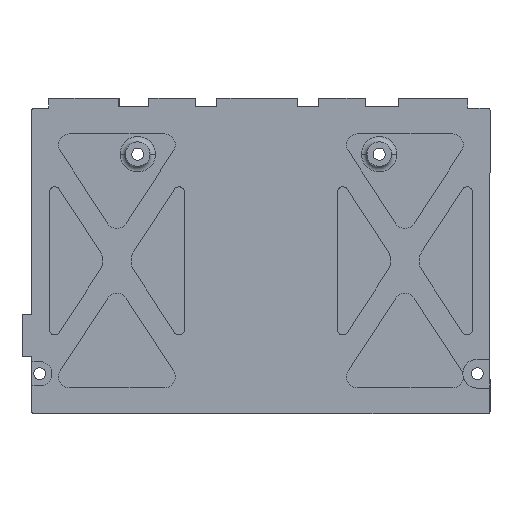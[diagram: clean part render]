
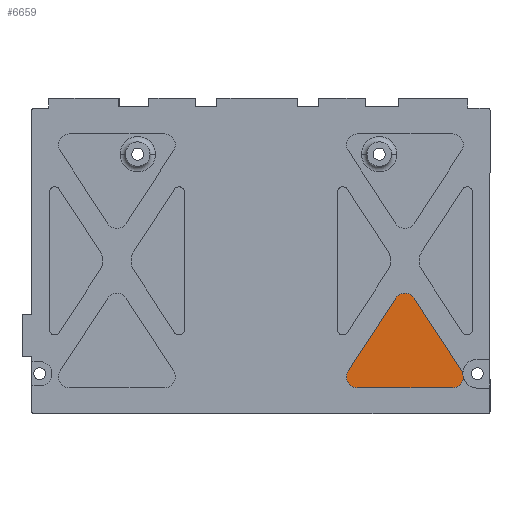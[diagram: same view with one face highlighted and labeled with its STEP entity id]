
A CAD part, top view. The second image highlights one B-rep face of the part: STEP entity #6659.
In plain terms, the highlighted planar face has unit normal (0, 0, 1).
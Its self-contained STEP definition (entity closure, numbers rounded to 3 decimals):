
#268 = VERTEX_POINT ( 'NONE', #8482 ) ;
#302 = DIRECTION ( 'NONE',  ( 1., 0., 0. ) ) ;
#326 = DIRECTION ( 'NONE',  ( -0.546, -0.838, 0. ) ) ;
#390 = EDGE_CURVE ( 'NONE', #7989, #8932, #4709, .T. ) ;
#640 = CARTESIAN_POINT ( 'NONE',  ( 37.058, -21.336, 1. ) ) ;
#641 = DIRECTION ( 'NONE',  ( -1., 0., 0. ) ) ;
#825 = DIRECTION ( 'NONE',  ( 1., 0., 0. ) ) ;
#882 = CIRCLE ( 'NONE', #2741, 2.64 ) ;
#994 = DIRECTION ( 'NONE',  ( 1., 0., 0. ) ) ;
#1158 = VECTOR ( 'NONE', #9232, 1000. ) ;
#1177 = VERTEX_POINT ( 'NONE', #7735 ) ;
#1192 = VERTEX_POINT ( 'NONE', #6785 ) ;
#1314 = FACE_OUTER_BOUND ( 'NONE', #2182, .T. ) ;
#1339 = CIRCLE ( 'NONE', #7787, 2. ) ;
#1449 = ORIENTED_EDGE ( 'NONE', *, *, #7322, .F. ) ;
#2109 = CARTESIAN_POINT ( 'NONE',  ( 26.375, -7.921, 1. ) ) ;
#2119 = CARTESIAN_POINT ( 'NONE',  ( 35.06, -21.25, 1. ) ) ;
#2182 = EDGE_LOOP ( 'NONE', ( #5155, #1449, #9013, #4539, #5256, #8809, #9574, #7003, #3849 ) ) ;
#2272 = VERTEX_POINT ( 'NONE', #640 ) ;
#2292 = CARTESIAN_POINT ( 'NONE',  ( 36.97, -20.66, 1. ) ) ;
#2315 = AXIS2_PLACEMENT_3D ( 'NONE', #10155, #5354, #3763 ) ;
#2349 = CARTESIAN_POINT ( 'NONE',  ( 24.699, -6.829, 1. ) ) ;
#2623 = CARTESIAN_POINT ( 'NONE',  ( 36.735, -20.158, 1. ) ) ;
#2660 = VECTOR ( 'NONE', #326, 1000. ) ;
#2741 = AXIS2_PLACEMENT_3D ( 'NONE', #7927, #3843, #9602 ) ;
#2989 = EDGE_CURVE ( 'NONE', #8442, #1177, #10086, .T. ) ;
#3132 = VERTEX_POINT ( 'NONE', #2292 ) ;
#3246 = DIRECTION ( 'NONE',  ( 1., 0., 0. ) ) ;
#3396 = CARTESIAN_POINT ( 'NONE',  ( 36.735, -20.158, 1. ) ) ;
#3426 = CIRCLE ( 'NONE', #9560, 2.64 ) ;
#3756 = AXIS2_PLACEMENT_3D ( 'NONE', #2109, #8602, #302 ) ;
#3763 = DIRECTION ( 'NONE',  ( -1., 0., 0. ) ) ;
#3770 = EDGE_CURVE ( 'NONE', #1192, #268, #8231, .T. ) ;
#3843 = DIRECTION ( 'NONE',  ( 0., 0., 1. ) ) ;
#3849 = ORIENTED_EDGE ( 'NONE', *, *, #3770, .T. ) ;
#4355 = PLANE ( 'NONE',  #3756 ) ;
#4452 = CIRCLE ( 'NONE', #5124, 2. ) ;
#4539 = ORIENTED_EDGE ( 'NONE', *, *, #390, .T. ) ;
#4709 = CIRCLE ( 'NONE', #2315, 2. ) ;
#5124 = AXIS2_PLACEMENT_3D ( 'NONE', #2119, #10449, #641 ) ;
#5155 = ORIENTED_EDGE ( 'NONE', *, *, #7668, .T. ) ;
#5256 = ORIENTED_EDGE ( 'NONE', *, *, #8273, .T. ) ;
#5354 = DIRECTION ( 'NONE',  ( 0., 0., 1. ) ) ;
#5425 = AXIS2_PLACEMENT_3D ( 'NONE', #6038, #9293, #3246 ) ;
#5564 = CARTESIAN_POINT ( 'NONE',  ( 17.69, -21.25, 1. ) ) ;
#6038 = CARTESIAN_POINT ( 'NONE',  ( 26.375, -7.921, 1. ) ) ;
#6106 = CIRCLE ( 'NONE', #5425, 2. ) ;
#6185 = CARTESIAN_POINT ( 'NONE',  ( 28.051, -6.829, 1. ) ) ;
#6659 = ADVANCED_FACE ( 'NONE', ( #1314 ), #4355, .T. ) ;
#6785 = CARTESIAN_POINT ( 'NONE',  ( 17.69, -23.25, 1. ) ) ;
#6980 = EDGE_CURVE ( 'NONE', #7989, #3132, #3426, .T. ) ;
#7003 = ORIENTED_EDGE ( 'NONE', *, *, #8136, .T. ) ;
#7322 = EDGE_CURVE ( 'NONE', #3132, #2272, #882, .T. ) ;
#7582 = CARTESIAN_POINT ( 'NONE',  ( 17.69, -23.25, 1. ) ) ;
#7668 = EDGE_CURVE ( 'NONE', #268, #2272, #4452, .T. ) ;
#7735 = CARTESIAN_POINT ( 'NONE',  ( 16.015, -20.158, 1. ) ) ;
#7787 = AXIS2_PLACEMENT_3D ( 'NONE', #5564, #7941, #825 ) ;
#7879 = EDGE_CURVE ( 'NONE', #8604, #8442, #6106, .T. ) ;
#7927 = CARTESIAN_POINT ( 'NONE',  ( 39.61, -20.66, 1. ) ) ;
#7941 = DIRECTION ( 'NONE',  ( 0., 0., 1. ) ) ;
#7989 = VERTEX_POINT ( 'NONE', #8582 ) ;
#8136 = EDGE_CURVE ( 'NONE', #1177, #1192, #1339, .T. ) ;
#8231 = LINE ( 'NONE', #7582, #9224 ) ;
#8273 = EDGE_CURVE ( 'NONE', #8932, #8604, #9023, .T. ) ;
#8442 = VERTEX_POINT ( 'NONE', #2349 ) ;
#8482 = CARTESIAN_POINT ( 'NONE',  ( 35.06, -23.25, 1. ) ) ;
#8582 = CARTESIAN_POINT ( 'NONE',  ( 36.97, -20.658, 1. ) ) ;
#8587 = DIRECTION ( 'NONE',  ( 1., 0., 0. ) ) ;
#8602 = DIRECTION ( 'NONE',  ( 0., 0., 1. ) ) ;
#8604 = VERTEX_POINT ( 'NONE', #6185 ) ;
#8809 = ORIENTED_EDGE ( 'NONE', *, *, #7879, .T. ) ;
#8932 = VERTEX_POINT ( 'NONE', #3396 ) ;
#9013 = ORIENTED_EDGE ( 'NONE', *, *, #6980, .F. ) ;
#9023 = LINE ( 'NONE', #2623, #1158 ) ;
#9224 = VECTOR ( 'NONE', #994, 1000. ) ;
#9232 = DIRECTION ( 'NONE',  ( -0.546, 0.838, 0. ) ) ;
#9293 = DIRECTION ( 'NONE',  ( 0., 0., 1. ) ) ;
#9351 = CARTESIAN_POINT ( 'NONE',  ( 39.61, -20.66, 1. ) ) ;
#9560 = AXIS2_PLACEMENT_3D ( 'NONE', #9351, #10200, #8587 ) ;
#9574 = ORIENTED_EDGE ( 'NONE', *, *, #2989, .T. ) ;
#9602 = DIRECTION ( 'NONE',  ( 1., 0., 0. ) ) ;
#10029 = CARTESIAN_POINT ( 'NONE',  ( 24.699, -6.829, 1. ) ) ;
#10086 = LINE ( 'NONE', #10029, #2660 ) ;
#10155 = CARTESIAN_POINT ( 'NONE',  ( 35.06, -21.25, 1. ) ) ;
#10200 = DIRECTION ( 'NONE',  ( 0., 0., 1. ) ) ;
#10449 = DIRECTION ( 'NONE',  ( 0., 0., 1. ) ) ;
